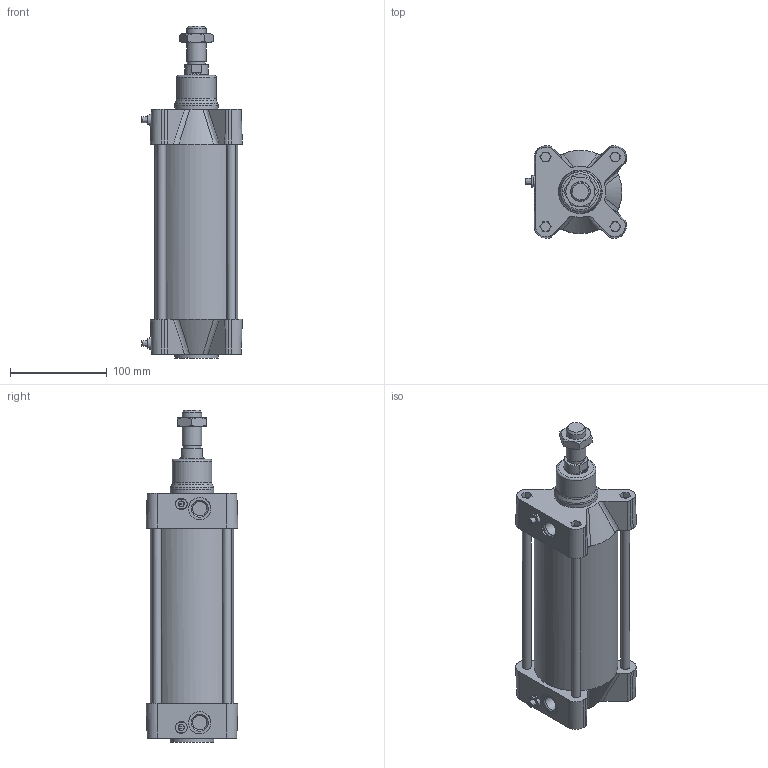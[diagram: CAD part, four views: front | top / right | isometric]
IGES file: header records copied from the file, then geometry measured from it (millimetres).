
Global section: file name: 1393_080_0125_01; native system: Autodesk Inventor 2014; preprocessor: unknown; author: A. Manieri; date: 20151130.150745; units: millimetre
Bounding box: 104 x 95 x 343 mm (x, y, z)
Volume: 1076809.1 mm3; surface area: 230278.7 mm2
Topology: 3 solids, 5 shells, 233 faces, 578 edges, 377 vertices
Faces by surface type: bspline 233
